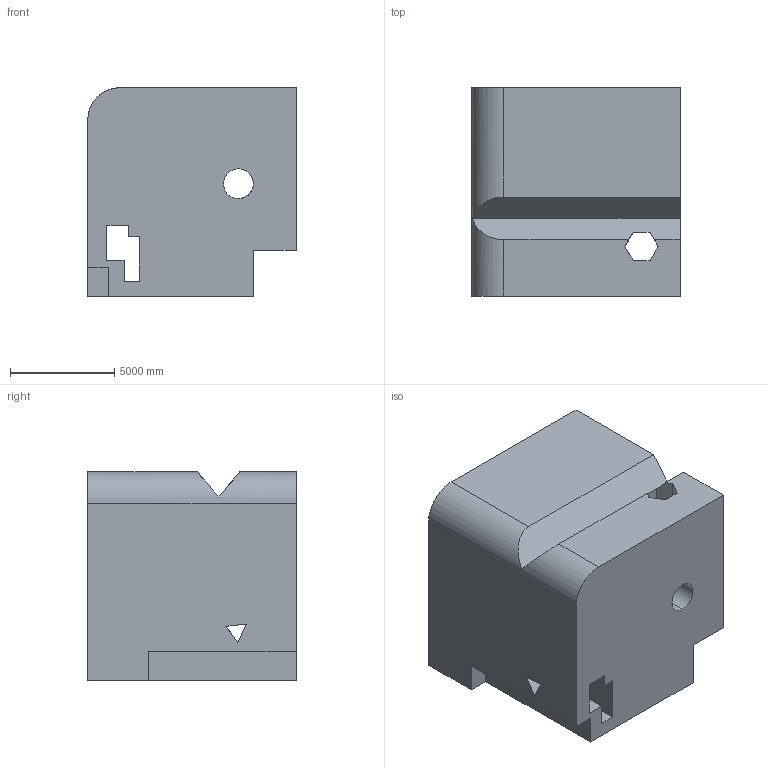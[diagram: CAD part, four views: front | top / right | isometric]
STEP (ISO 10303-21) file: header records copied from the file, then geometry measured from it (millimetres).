
FILE_DESCRIPTION (( 'STEP AP203' ), '1' );
FILE_NAME ('186.STEP', '2022-09-06T16:17:37', ( 'user' ), ( '' ), 'SwSTEP 2.0', 'SolidWorks 2021', '' );
FILE_SCHEMA (( 'CONFIG_CONTROL_DESIGN' ));
Length unit declared in the file: centimetre
Products named in the file (1): 186
Bounding box: 10000 x 10000 x 10000 mm (x, y, z)
Volume: 859546887844.7 mm3; surface area: 758607923.6 mm2
Topology: 1 solids, 1 shells, 43 faces, 135 edges, 90 vertices
Faces by surface type: plane 40, cylinder 3
Entity records: 1578 total; most frequent: CARTESIAN_POINT 287, ORIENTED_EDGE 270, DIRECTION 225, EDGE_CURVE 135, VECTOR 121, LINE 121, VERTEX_POINT 90, AXIS2_PLACEMENT_3D 52
